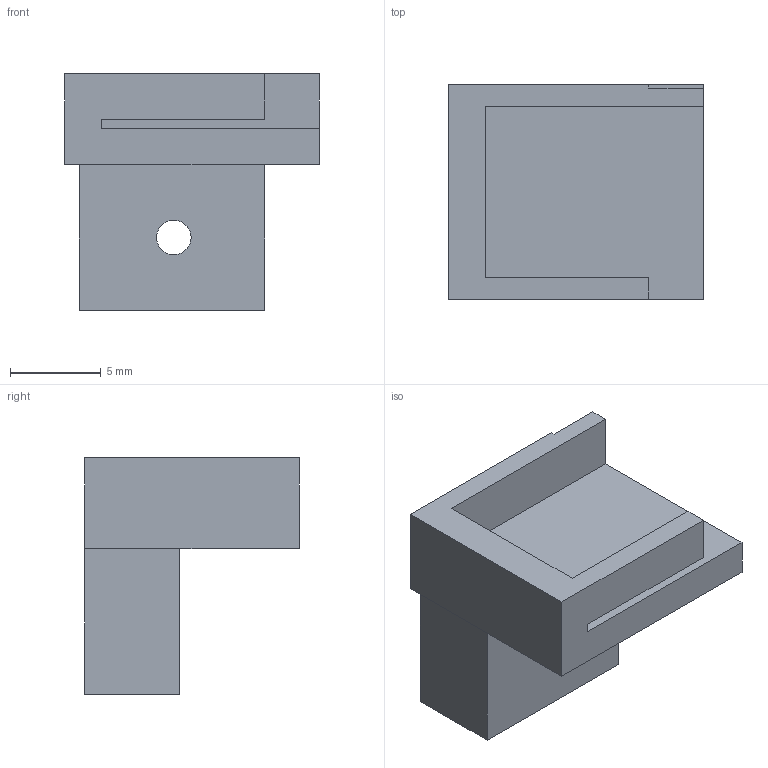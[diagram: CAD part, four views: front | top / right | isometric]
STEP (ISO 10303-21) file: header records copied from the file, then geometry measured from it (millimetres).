
FILE_DESCRIPTION(('Open CASCADE Model'),'2;1');
FILE_NAME('Open CASCADE Shape Model','2026-09-06T11:49:07',('Author'),( 'Open CASCADE'),'Open CASCADE STEP processor 7.8','build123d', 'Unknown');
FILE_SCHEMA(('AUTOMOTIVE_DESIGN { 1 0 10303 214 1 1 1 1 }'));
Length unit declared in the file: millimetre
Products named in the file (2): =>[0:1:1:2]; SOLID
Assembly tree (1 placements, depth 2):
  =>[0:1:1:2]
    SOLID
Bounding box: 14 x 11.8 x 13 mm (x, y, z)
Volume: 602.2 mm3; surface area: 906.5 mm2
Topology: 1 solids, 1 shells, 27 faces, 74 edges, 49 vertices
Faces by surface type: plane 26, cylinder 1
Full cylindrical faces by diameter (mm): 1.9 x1
Entity records: 1810 total; most frequent: CARTESIAN_POINT 344, DIRECTION 248, LINE 186, VECTOR 186, ORIENTED_EDGE 148, PCURVE 148, DEFINITIONAL_REPRESENTATION 148, EDGE_CURVE 74
